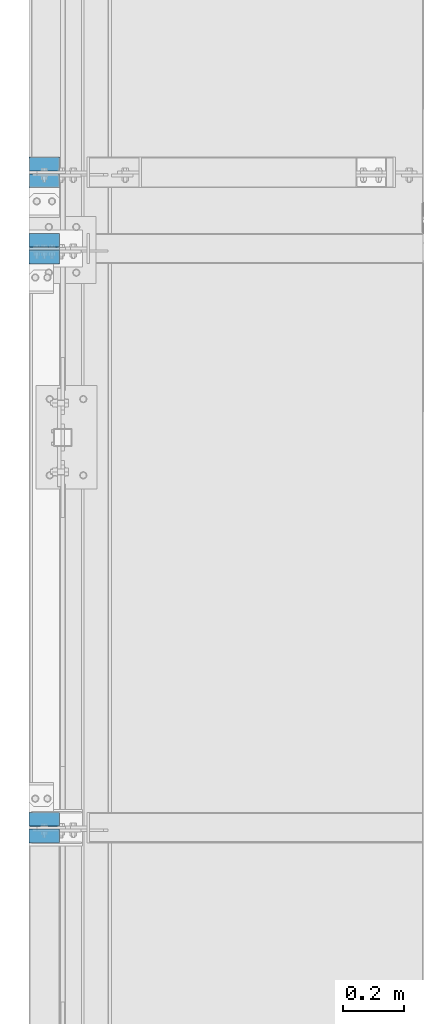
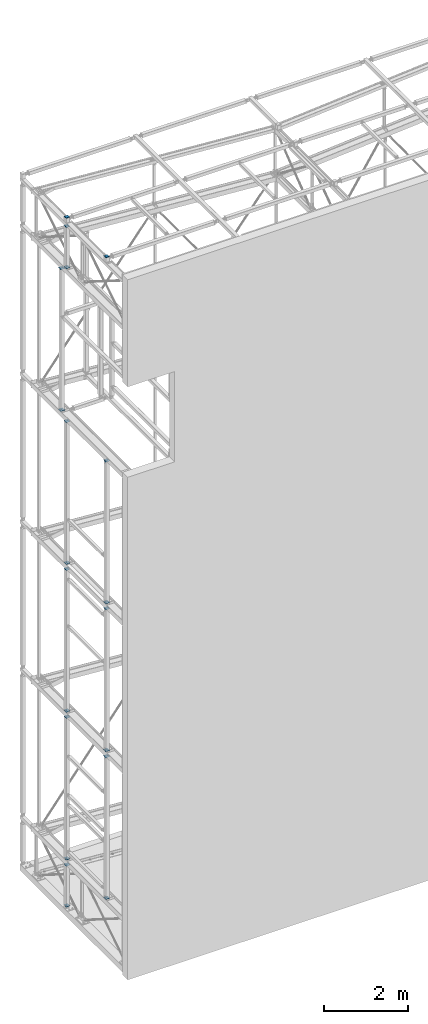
# One storey, part 2 of 271: 38 columns, 10 elements without a shape of their own.
"""IFC2X3 building model written with IfcOpenShell, lengths in millimetres."""

from ifc_helpers import new_model, si_unit, frame, origin_with_axes, origin_2d_with_axis, place, context, subcontext, project, spatial, rectangle, extrude, material, type_object, element, aggregate, save


model = new_model("IFC2X3")

# Units and contexts
model_context = context("Model", 3, precision=1e-05, world=origin_with_axes())
body_context = subcontext(model_context, "Body", "Model", "MODEL_VIEW")
ifc_project = project(units=[si_unit("LENGTHUNIT", "METRE", prefix="MILLI"), si_unit("AREAUNIT", "SQUARE_METRE"), si_unit("VOLUMEUNIT", "CUBIC_METRE"), si_unit("MASSUNIT", "GRAM", prefix="KILO"), si_unit("TIMEUNIT", "SECOND"), si_unit("PLANEANGLEUNIT", "RADIAN"), si_unit("SOLIDANGLEUNIT", "STERADIAN"), si_unit("THERMODYNAMICTEMPERATUREUNIT", "DEGREE_CELSIUS"), si_unit("LUMINOUSINTENSITYUNIT", "LUMEN")], contexts=[model_context])

# Site, building, storey
site_placement = place(None, origin_with_axes())
site = spatial("IfcSite", under=ifc_project, at=site_placement, Name="Undefined", CompositionType="ELEMENT")
building_placement = place(site_placement, origin_with_axes())
building = spatial("IfcBuilding", under=site, at=building_placement, Name="Undefined", CompositionType="ELEMENT")
storey_placement = place(building_placement, origin_with_axes())
storey = spatial("IfcBuildingStorey", under=building, at=storey_placement, Name="Undefined", CompositionType="ELEMENT", Elevation=0.0)

# Assembly, columns
assembly_1_placement = place(storey_placement, origin_with_axes())
assembly_1 = element("IfcElementAssembly", 1, at=assembly_1_placement, inside=storey, AssemblyPlace="NOTDEFINED", PredefinedType="RIGID_FRAME")
ifc_material = material(Name="STEEL/S355JR")
column_type = type_object("IfcColumnType", Name="BL4*100", PredefinedType="NOTDEFINED")
column_1_placement = place(assembly_1_placement, frame((38.3756870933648, 2749.05239091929, 19936.8499999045), z_axis=(0.0, 1.0, 0.0), x_axis=(-1.0, 0.0, 1.38777878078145e-17)))
column_1 = element("IfcColumn", 2, at=column_1_placement, type_object=column_type, material=ifc_material, Name="BLACHA", ObjectType="BL4*100", context=body_context, shape_type="SweptSolid", body=[
    extrude(rectangle(XDim=4.0, YDim=100.0, at=origin_2d_with_axis()), frame((0.0, 0.0, 45.0), z_axis=(0.0, 0.0, -1.0), x_axis=(0.0, 1.0, 0.0)), (0.0, 0.0, 1.0), 45.0),
])
column_2_placement = place(assembly_1_placement, frame((38.3756870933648, 2804.05225536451, 19936.8499999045), z_axis=(0.0, 1.0, 0.0), x_axis=(-1.0, 0.0, 1.38777878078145e-17)))
column_2 = element("IfcColumn", 3, at=column_2_placement, type_object=column_type, material=ifc_material, Name="BLACHA", ObjectType="BL4*100", context=body_context, shape_type="SweptSolid", body=[
    extrude(rectangle(XDim=4.0, YDim=100.0, at=origin_2d_with_axis()), frame((0.0, 0.0, 45.0), z_axis=(0.0, 0.0, -1.0), x_axis=(0.0, 1.0, 0.0)), (0.0, 0.0, 1.0), 45.0),
])
column_3_placement = place(assembly_1_placement, frame((38.3756870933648, 2749.05225536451, 18733.8499999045), z_axis=(0.0, 1.0, 0.0), x_axis=(-1.0, 0.0, 1.38777878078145e-17)))
column_3 = element("IfcColumn", 4, at=column_3_placement, type_object=column_type, material=ifc_material, Name="BLACHA", ObjectType="BL4*100", context=body_context, shape_type="SweptSolid", body=[
    extrude(rectangle(XDim=4.0, YDim=100.0, at=origin_2d_with_axis()), frame((0.0, 0.0, 45.0), z_axis=(0.0, 0.0, -1.0), x_axis=(0.0, 1.0, 0.0)), (0.0, 0.0, 1.0), 45.0),
])
column_4_placement = place(assembly_1_placement, frame((38.3756870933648, 2804.05211980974, 18733.8499999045), z_axis=(0.0, 1.0, 0.0), x_axis=(-1.0, 0.0, 1.38777878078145e-17)))
column_4 = element("IfcColumn", 5, at=column_4_placement, type_object=column_type, material=ifc_material, Name="BLACHA", ObjectType="BL4*100", context=body_context, shape_type="SweptSolid", body=[
    extrude(rectangle(XDim=4.0, YDim=100.0, at=origin_2d_with_axis()), frame((0.0, 0.0, 45.0), z_axis=(0.0, 0.0, -1.0), x_axis=(0.0, 1.0, 0.0)), (0.0, 0.0, 1.0), 45.0),
])
aggregate(assembly_1, [column_1, column_2, column_3, column_4])

assembly_2_placement = place(storey_placement, origin_with_axes())
assembly_2 = element("IfcElementAssembly", 6, at=assembly_2_placement, inside=storey, AssemblyPlace="NOTDEFINED", PredefinedType="RIGID_FRAME")
column_5_placement = place(assembly_2_placement, frame((38.3756870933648, 2749.05239091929, 79.8499999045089), z_axis=(0.0, 1.0, 0.0), x_axis=(-1.0, 0.0, 1.38777878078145e-17)))
column_5 = element("IfcColumn", 7, at=column_5_placement, type_object=column_type, material=ifc_material, Name="BLACHA", ObjectType="BL4*100", context=body_context, shape_type="SweptSolid", body=[
    extrude(rectangle(XDim=4.0, YDim=100.0, at=origin_2d_with_axis()), frame((0.0, 0.0, 45.0), z_axis=(0.0, 0.0, -1.0), x_axis=(0.0, 1.0, 0.0)), (0.0, 0.0, 1.0), 45.0),
])
column_6_placement = place(assembly_2_placement, frame((38.3756870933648, 2804.05225536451, 79.8499999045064), z_axis=(0.0, 1.0, 0.0), x_axis=(-1.0, 0.0, 1.38777878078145e-17)))
column_6 = element("IfcColumn", 8, at=column_6_placement, type_object=column_type, material=ifc_material, Name="BLACHA", ObjectType="BL4*100", context=body_context, shape_type="SweptSolid", body=[
    extrude(rectangle(XDim=4.0, YDim=100.0, at=origin_2d_with_axis()), frame((0.0, 0.0, 45.0), z_axis=(0.0, 0.0, -1.0), x_axis=(0.0, 1.0, 0.0)), (0.0, 0.0, 1.0), 45.0),
])
column_7_placement = place(assembly_2_placement, frame((38.3756870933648, 2749.05225536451, 1274.8499999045), z_axis=(0.0, 1.0, 0.0), x_axis=(-1.0, 0.0, 1.38777878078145e-17)))
column_7 = element("IfcColumn", 9, at=column_7_placement, type_object=column_type, material=ifc_material, Name="BLACHA", ObjectType="BL4*100", context=body_context, shape_type="SweptSolid", body=[
    extrude(rectangle(XDim=4.0, YDim=100.0, at=origin_2d_with_axis()), frame((0.0, 0.0, 45.0), z_axis=(0.0, 0.0, -1.0), x_axis=(0.0, 1.0, 0.0)), (0.0, 0.0, 1.0), 45.0),
])
column_8_placement = place(assembly_2_placement, frame((38.3756870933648, 2804.05211980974, 1274.84999990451), z_axis=(0.0, 1.0, 0.0), x_axis=(-1.0, 0.0, 1.38777878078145e-17)))
column_8 = element("IfcColumn", 10, at=column_8_placement, type_object=column_type, material=ifc_material, Name="BLACHA", ObjectType="BL4*100", context=body_context, shape_type="SweptSolid", body=[
    extrude(rectangle(XDim=4.0, YDim=100.0, at=origin_2d_with_axis()), frame((0.0, 0.0, 45.0), z_axis=(0.0, 0.0, -1.0), x_axis=(0.0, 1.0, 0.0)), (0.0, 0.0, 1.0), 45.0),
])
aggregate(assembly_2, [column_5, column_6, column_7, column_8])

assembly_3_placement = place(storey_placement, origin_with_axes())
assembly_3 = element("IfcElementAssembly", 11, at=assembly_3_placement, inside=storey, AssemblyPlace="NOTDEFINED", PredefinedType="RIGID_FRAME")
column_9_placement = place(assembly_3_placement, frame((38.3756870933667, 849.324984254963, 20202.3499999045), z_axis=(0.0, 1.0, 0.0), x_axis=(1.0, 0.0, 0.0)))
column_9 = element("IfcColumn", 12, at=column_9_placement, type_object=column_type, material=ifc_material, Name="BLACHA", ObjectType="BL4*100", context=body_context, shape_type="SweptSolid", body=[
    extrude(rectangle(XDim=4.0, YDim=100.0, at=origin_2d_with_axis()), frame((0.0, 0.0, 100.0), z_axis=(0.0, 0.0, -1.0), x_axis=(0.0, 1.0, 0.0)), (0.0, 0.0, 1.0), 100.0),
])
column_10_placement = place(assembly_3_placement, frame((38.3756870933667, 2749.32498425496, 20202.3499999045), z_axis=(0.0, 1.0, 0.0), x_axis=(1.0, 0.0, 0.0)))
column_10 = element("IfcColumn", 13, at=column_10_placement, type_object=column_type, material=ifc_material, Name="BLACHA", ObjectType="BL4*100", context=body_context, shape_type="SweptSolid", body=[
    extrude(rectangle(XDim=4.0, YDim=100.0, at=origin_2d_with_axis()), frame((0.0, 0.0, 100.0), z_axis=(0.0, 0.0, -1.0), x_axis=(0.0, 1.0, 0.0)), (0.0, 0.0, 1.0), 100.0),
])
aggregate(assembly_3, [column_9, column_10])

assembly_4_placement = place(storey_placement, origin_with_axes())
assembly_4 = element("IfcElementAssembly", 14, at=assembly_4_placement, inside=storey, AssemblyPlace="NOTDEFINED", PredefinedType="RIGID_FRAME")
column_11_placement = place(assembly_4_placement, frame((38.3756870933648, 3054.05211980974, 18554.8499999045), z_axis=(0.0, 1.0, 0.0), x_axis=(-1.0, 0.0, 1.38777878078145e-17)))
column_11 = element("IfcColumn", 15, at=column_11_placement, type_object=column_type, material=ifc_material, Name="BLACHA", ObjectType="BL4*100", context=body_context, shape_type="SweptSolid", body=[
    extrude(rectangle(XDim=4.0, YDim=100.0, at=origin_2d_with_axis()), frame((0.0, 0.0, 45.0), z_axis=(0.0, 0.0, -1.0), x_axis=(0.0, 1.0, 0.0)), (0.0, 0.0, 1.0), 45.0),
])
column_12_placement = place(assembly_4_placement, frame((38.3756870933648, 2999.05225536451, 18554.8499999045), z_axis=(0.0, 1.0, 0.0), x_axis=(-1.0, 0.0, 1.38777878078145e-17)))
column_12 = element("IfcColumn", 16, at=column_12_placement, type_object=column_type, material=ifc_material, Name="BLACHA", ObjectType="BL4*100", context=body_context, shape_type="SweptSolid", body=[
    extrude(rectangle(XDim=4.0, YDim=100.0, at=origin_2d_with_axis()), frame((0.0, 0.0, 45.0), z_axis=(0.0, 0.0, -1.0), x_axis=(0.0, 1.0, 0.0)), (0.0, 0.0, 1.0), 45.0),
])
column_13_placement = place(assembly_4_placement, frame((38.3756870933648, 2999.05225536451, 14413.8499999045), z_axis=(0.0, 1.0, 0.0), x_axis=(-1.0, 0.0, 1.38777878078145e-17)))
column_13 = element("IfcColumn", 17, at=column_13_placement, type_object=column_type, material=ifc_material, Name="BLACHA", ObjectType="BL4*100", context=body_context, shape_type="SweptSolid", body=[
    extrude(rectangle(XDim=4.0, YDim=100.0, at=origin_2d_with_axis()), frame((0.0, 0.0, 45.0), z_axis=(0.0, 0.0, -1.0), x_axis=(0.0, 1.0, 0.0)), (0.0, 0.0, 1.0), 45.0),
])
column_14_placement = place(assembly_4_placement, frame((38.3756870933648, 3054.05211980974, 14413.8499999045), z_axis=(0.0, 1.0, 0.0), x_axis=(-1.0, 0.0, 1.38777878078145e-17)))
column_14 = element("IfcColumn", 18, at=column_14_placement, type_object=column_type, material=ifc_material, Name="BLACHA", ObjectType="BL4*100", context=body_context, shape_type="SweptSolid", body=[
    extrude(rectangle(XDim=4.0, YDim=100.0, at=origin_2d_with_axis()), frame((0.0, 0.0, 45.0), z_axis=(0.0, 0.0, -1.0), x_axis=(0.0, 1.0, 0.0)), (0.0, 0.0, 1.0), 45.0),
])
aggregate(assembly_4, [column_11, column_12, column_13, column_14])

# Assembly, column
assembly_5_placement = place(storey_placement, origin_with_axes())
assembly_5 = element("IfcElementAssembly", 19, at=assembly_5_placement, inside=storey, AssemblyPlace="NOTDEFINED", PredefinedType="RIGID_FRAME")
column_15_placement = place(assembly_5_placement, frame((38.3756870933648, 904.052119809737, 14234.8499999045), z_axis=(0.0, 1.0, 0.0), x_axis=(-1.0, 0.0, 1.38777878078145e-17)))
column_15 = element("IfcColumn", 20, at=column_15_placement, type_object=column_type, material=ifc_material, Name="BLACHA", ObjectType="BL4*100", context=body_context, shape_type="SweptSolid", body=[
    extrude(rectangle(XDim=4.0, YDim=100.0, at=origin_2d_with_axis()), frame((0.0, 0.0, 45.0), z_axis=(0.0, 0.0, -1.0), x_axis=(0.0, 1.0, 0.0)), (0.0, 0.0, 1.0), 45.0),
])

assembly_6_placement = place(storey_placement, origin_with_axes())
assembly_6 = element("IfcElementAssembly", 21, at=assembly_6_placement, inside=storey, AssemblyPlace="NOTDEFINED", PredefinedType="RIGID_FRAME")
column_16_placement = place(assembly_6_placement, frame((38.3756870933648, 2804.05211980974, 14234.8499999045), z_axis=(0.0, 1.0, 0.0), x_axis=(-1.0, 0.0, 1.38777878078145e-17)))
column_16 = element("IfcColumn", 22, at=column_16_placement, type_object=column_type, material=ifc_material, Name="BLACHA", ObjectType="BL4*100", context=body_context, shape_type="SweptSolid", body=[
    extrude(rectangle(XDim=4.0, YDim=100.0, at=origin_2d_with_axis()), frame((0.0, 0.0, 45.0), z_axis=(0.0, 0.0, -1.0), x_axis=(0.0, 1.0, 0.0)), (0.0, 0.0, 1.0), 45.0),
])

assembly_7_placement = place(storey_placement, origin_with_axes())
assembly_7 = element("IfcElementAssembly", 23, at=assembly_7_placement, inside=storey, AssemblyPlace="NOTDEFINED", PredefinedType="RIGID_FRAME")
column_17_placement = place(assembly_7_placement, frame((38.3756870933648, 904.052119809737, 9914.8499999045), z_axis=(0.0, 1.0, 0.0), x_axis=(-1.0, 0.0, 1.38777878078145e-17)))
column_17 = element("IfcColumn", 24, at=column_17_placement, type_object=column_type, material=ifc_material, Name="BLACHA", ObjectType="BL4*100", context=body_context, shape_type="SweptSolid", body=[
    extrude(rectangle(XDim=4.0, YDim=100.0, at=origin_2d_with_axis()), frame((0.0, 0.0, 45.0), z_axis=(0.0, 0.0, -1.0), x_axis=(0.0, 1.0, 0.0)), (0.0, 0.0, 1.0), 45.0),
])

assembly_8_placement = place(storey_placement, origin_with_axes())
assembly_8 = element("IfcElementAssembly", 25, at=assembly_8_placement, inside=storey, AssemblyPlace="NOTDEFINED", PredefinedType="RIGID_FRAME")
column_18_placement = place(assembly_8_placement, frame((38.3756870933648, 2804.05211980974, 9914.8499999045), z_axis=(0.0, 1.0, 0.0), x_axis=(-1.0, 0.0, 1.38777878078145e-17)))
column_18 = element("IfcColumn", 26, at=column_18_placement, type_object=column_type, material=ifc_material, Name="BLACHA", ObjectType="BL4*100", context=body_context, shape_type="SweptSolid", body=[
    extrude(rectangle(XDim=4.0, YDim=100.0, at=origin_2d_with_axis()), frame((0.0, 0.0, 45.0), z_axis=(0.0, 0.0, -1.0), x_axis=(0.0, 1.0, 0.0)), (0.0, 0.0, 1.0), 45.0),
])

assembly_9_placement = place(storey_placement, origin_with_axes())
assembly_9 = element("IfcElementAssembly", 27, at=assembly_9_placement, inside=storey, AssemblyPlace="NOTDEFINED", PredefinedType="RIGID_FRAME")
column_19_placement = place(assembly_9_placement, frame((38.3756870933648, 904.052119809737, 5594.84999990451), z_axis=(0.0, 1.0, 0.0), x_axis=(-1.0, 0.0, 1.38777878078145e-17)))
column_19 = element("IfcColumn", 28, at=column_19_placement, type_object=column_type, material=ifc_material, Name="BLACHA", ObjectType="BL4*100", context=body_context, shape_type="SweptSolid", body=[
    extrude(rectangle(XDim=4.0, YDim=100.0, at=origin_2d_with_axis()), frame((0.0, 0.0, 45.0), z_axis=(0.0, 0.0, -1.0), x_axis=(0.0, 1.0, 0.0)), (0.0, 0.0, 1.0), 45.0),
])

# Column
column_20_placement = place(assembly_5_placement, frame((38.3756870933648, 849.052255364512, 14234.8499999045), z_axis=(0.0, 1.0, 0.0), x_axis=(-1.0, 0.0, 1.38777878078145e-17)))
column_20 = element("IfcColumn", 29, at=column_20_placement, type_object=column_type, material=ifc_material, Name="BLACHA", ObjectType="BL4*100", context=body_context, shape_type="SweptSolid", body=[
    extrude(rectangle(XDim=4.0, YDim=100.0, at=origin_2d_with_axis()), frame((0.0, 0.0, 45.0), z_axis=(0.0, 0.0, -1.0), x_axis=(0.0, 1.0, 0.0)), (0.0, 0.0, 1.0), 45.0),
])

column_21_placement = place(assembly_5_placement, frame((38.3756870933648, 849.052255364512, 10093.8499999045), z_axis=(0.0, 1.0, 0.0), x_axis=(-1.0, 0.0, 1.38777878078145e-17)))
column_21 = element("IfcColumn", 30, at=column_21_placement, type_object=column_type, material=ifc_material, Name="BLACHA", ObjectType="BL4*100", context=body_context, shape_type="SweptSolid", body=[
    extrude(rectangle(XDim=4.0, YDim=100.0, at=origin_2d_with_axis()), frame((0.0, 0.0, 45.0), z_axis=(0.0, 0.0, -1.0), x_axis=(0.0, 1.0, 0.0)), (0.0, 0.0, 1.0), 45.0),
])

column_22_placement = place(assembly_5_placement, frame((38.3756870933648, 904.052119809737, 10093.8499999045), z_axis=(0.0, 1.0, 0.0), x_axis=(-1.0, 0.0, 1.38777878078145e-17)))
column_22 = element("IfcColumn", 31, at=column_22_placement, type_object=column_type, material=ifc_material, Name="BLACHA", ObjectType="BL4*100", context=body_context, shape_type="SweptSolid", body=[
    extrude(rectangle(XDim=4.0, YDim=100.0, at=origin_2d_with_axis()), frame((0.0, 0.0, 45.0), z_axis=(0.0, 0.0, -1.0), x_axis=(0.0, 1.0, 0.0)), (0.0, 0.0, 1.0), 45.0),
])

aggregate(assembly_5, [column_15, column_20, column_21, column_22])

column_23_placement = place(assembly_6_placement, frame((38.3756870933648, 2749.05225536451, 14234.8499999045), z_axis=(0.0, 1.0, 0.0), x_axis=(-1.0, 0.0, 1.38777878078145e-17)))
column_23 = element("IfcColumn", 32, at=column_23_placement, type_object=column_type, material=ifc_material, Name="BLACHA", ObjectType="BL4*100", context=body_context, shape_type="SweptSolid", body=[
    extrude(rectangle(XDim=4.0, YDim=100.0, at=origin_2d_with_axis()), frame((0.0, 0.0, 45.0), z_axis=(0.0, 0.0, -1.0), x_axis=(0.0, 1.0, 0.0)), (0.0, 0.0, 1.0), 45.0),
])

column_24_placement = place(assembly_6_placement, frame((38.3756870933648, 2749.05225536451, 10093.8499999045), z_axis=(0.0, 1.0, 0.0), x_axis=(-1.0, 0.0, 1.38777878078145e-17)))
column_24 = element("IfcColumn", 33, at=column_24_placement, type_object=column_type, material=ifc_material, Name="BLACHA", ObjectType="BL4*100", context=body_context, shape_type="SweptSolid", body=[
    extrude(rectangle(XDim=4.0, YDim=100.0, at=origin_2d_with_axis()), frame((0.0, 0.0, 45.0), z_axis=(0.0, 0.0, -1.0), x_axis=(0.0, 1.0, 0.0)), (0.0, 0.0, 1.0), 45.0),
])

column_25_placement = place(assembly_6_placement, frame((38.3756870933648, 2804.05211980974, 10093.8499999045), z_axis=(0.0, 1.0, 0.0), x_axis=(-1.0, 0.0, 1.38777878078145e-17)))
column_25 = element("IfcColumn", 34, at=column_25_placement, type_object=column_type, material=ifc_material, Name="BLACHA", ObjectType="BL4*100", context=body_context, shape_type="SweptSolid", body=[
    extrude(rectangle(XDim=4.0, YDim=100.0, at=origin_2d_with_axis()), frame((0.0, 0.0, 45.0), z_axis=(0.0, 0.0, -1.0), x_axis=(0.0, 1.0, 0.0)), (0.0, 0.0, 1.0), 45.0),
])

aggregate(assembly_6, [column_16, column_23, column_24, column_25])

column_26_placement = place(assembly_7_placement, frame((38.3756870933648, 849.052255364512, 9914.84999990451), z_axis=(0.0, 1.0, 0.0), x_axis=(-1.0, 0.0, 1.38777878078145e-17)))
column_26 = element("IfcColumn", 35, at=column_26_placement, type_object=column_type, material=ifc_material, Name="BLACHA", ObjectType="BL4*100", context=body_context, shape_type="SweptSolid", body=[
    extrude(rectangle(XDim=4.0, YDim=100.0, at=origin_2d_with_axis()), frame((0.0, 0.0, 45.0), z_axis=(0.0, 0.0, -1.0), x_axis=(0.0, 1.0, 0.0)), (0.0, 0.0, 1.0), 45.0),
])

column_27_placement = place(assembly_7_placement, frame((38.3756870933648, 849.052255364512, 5773.84999990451), z_axis=(0.0, 1.0, 0.0), x_axis=(-1.0, 0.0, 1.38777878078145e-17)))
column_27 = element("IfcColumn", 36, at=column_27_placement, type_object=column_type, material=ifc_material, Name="BLACHA", ObjectType="BL4*100", context=body_context, shape_type="SweptSolid", body=[
    extrude(rectangle(XDim=4.0, YDim=100.0, at=origin_2d_with_axis()), frame((0.0, 0.0, 45.0), z_axis=(0.0, 0.0, -1.0), x_axis=(0.0, 1.0, 0.0)), (0.0, 0.0, 1.0), 45.0),
])

column_28_placement = place(assembly_7_placement, frame((38.3756870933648, 904.052119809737, 5773.84999990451), z_axis=(0.0, 1.0, 0.0), x_axis=(-1.0, 0.0, 1.38777878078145e-17)))
column_28 = element("IfcColumn", 37, at=column_28_placement, type_object=column_type, material=ifc_material, Name="BLACHA", ObjectType="BL4*100", context=body_context, shape_type="SweptSolid", body=[
    extrude(rectangle(XDim=4.0, YDim=100.0, at=origin_2d_with_axis()), frame((0.0, 0.0, 45.0), z_axis=(0.0, 0.0, -1.0), x_axis=(0.0, 1.0, 0.0)), (0.0, 0.0, 1.0), 45.0),
])

aggregate(assembly_7, [column_17, column_26, column_27, column_28])

column_29_placement = place(assembly_8_placement, frame((38.3756870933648, 2749.05225536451, 9914.84999990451), z_axis=(0.0, 1.0, 0.0), x_axis=(-1.0, 0.0, 1.38777878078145e-17)))
column_29 = element("IfcColumn", 38, at=column_29_placement, type_object=column_type, material=ifc_material, Name="BLACHA", ObjectType="BL4*100", context=body_context, shape_type="SweptSolid", body=[
    extrude(rectangle(XDim=4.0, YDim=100.0, at=origin_2d_with_axis()), frame((0.0, 0.0, 45.0), z_axis=(0.0, 0.0, -1.0), x_axis=(0.0, 1.0, 0.0)), (0.0, 0.0, 1.0), 45.0),
])

column_30_placement = place(assembly_8_placement, frame((38.3756870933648, 2749.05225536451, 5773.84999990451), z_axis=(0.0, 1.0, 0.0), x_axis=(-1.0, 0.0, 1.38777878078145e-17)))
column_30 = element("IfcColumn", 39, at=column_30_placement, type_object=column_type, material=ifc_material, Name="BLACHA", ObjectType="BL4*100", context=body_context, shape_type="SweptSolid", body=[
    extrude(rectangle(XDim=4.0, YDim=100.0, at=origin_2d_with_axis()), frame((0.0, 0.0, 45.0), z_axis=(0.0, 0.0, -1.0), x_axis=(0.0, 1.0, 0.0)), (0.0, 0.0, 1.0), 45.0),
])

column_31_placement = place(assembly_8_placement, frame((38.3756870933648, 2804.05211980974, 5773.84999990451), z_axis=(0.0, 1.0, 0.0), x_axis=(-1.0, 0.0, 1.38777878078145e-17)))
column_31 = element("IfcColumn", 40, at=column_31_placement, type_object=column_type, material=ifc_material, Name="BLACHA", ObjectType="BL4*100", context=body_context, shape_type="SweptSolid", body=[
    extrude(rectangle(XDim=4.0, YDim=100.0, at=origin_2d_with_axis()), frame((0.0, 0.0, 45.0), z_axis=(0.0, 0.0, -1.0), x_axis=(0.0, 1.0, 0.0)), (0.0, 0.0, 1.0), 45.0),
])

aggregate(assembly_8, [column_18, column_29, column_30, column_31])

column_32_placement = place(assembly_9_placement, frame((38.3756870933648, 849.052255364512, 5594.8499999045), z_axis=(0.0, 1.0, 0.0), x_axis=(-1.0, 0.0, 1.38777878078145e-17)))
column_32 = element("IfcColumn", 41, at=column_32_placement, type_object=column_type, material=ifc_material, Name="BLACHA", ObjectType="BL4*100", context=body_context, shape_type="SweptSolid", body=[
    extrude(rectangle(XDim=4.0, YDim=100.0, at=origin_2d_with_axis()), frame((0.0, 0.0, 45.0), z_axis=(0.0, 0.0, -1.0), x_axis=(0.0, 1.0, 0.0)), (0.0, 0.0, 1.0), 45.0),
])

column_33_placement = place(assembly_9_placement, frame((38.3756870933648, 849.052255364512, 1453.84999990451), z_axis=(0.0, 1.0, 0.0), x_axis=(-1.0, 0.0, 1.38777878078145e-17)))
column_33 = element("IfcColumn", 42, at=column_33_placement, type_object=column_type, material=ifc_material, Name="BLACHA", ObjectType="BL4*100", context=body_context, shape_type="SweptSolid", body=[
    extrude(rectangle(XDim=4.0, YDim=100.0, at=origin_2d_with_axis()), frame((0.0, 0.0, 45.0), z_axis=(0.0, 0.0, -1.0), x_axis=(0.0, 1.0, 0.0)), (0.0, 0.0, 1.0), 45.0),
])

column_34_placement = place(assembly_9_placement, frame((38.3756870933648, 904.052119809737, 1453.84999990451), z_axis=(0.0, 1.0, 0.0), x_axis=(-1.0, 0.0, 1.38777878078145e-17)))
column_34 = element("IfcColumn", 43, at=column_34_placement, type_object=column_type, material=ifc_material, Name="BLACHA", ObjectType="BL4*100", context=body_context, shape_type="SweptSolid", body=[
    extrude(rectangle(XDim=4.0, YDim=100.0, at=origin_2d_with_axis()), frame((0.0, 0.0, 45.0), z_axis=(0.0, 0.0, -1.0), x_axis=(0.0, 1.0, 0.0)), (0.0, 0.0, 1.0), 45.0),
])

aggregate(assembly_9, [column_19, column_32, column_33, column_34])

# Assembly, columns
assembly_10_placement = place(storey_placement, origin_with_axes())
assembly_10 = element("IfcElementAssembly", 44, at=assembly_10_placement, inside=storey, AssemblyPlace="NOTDEFINED", PredefinedType="RIGID_FRAME")
column_35_placement = place(assembly_10_placement, frame((38.3756870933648, 2749.05225536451, 5594.8499999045), z_axis=(0.0, 1.0, 0.0), x_axis=(-1.0, 0.0, 1.38777878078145e-17)))
column_35 = element("IfcColumn", 45, at=column_35_placement, type_object=column_type, material=ifc_material, Name="BLACHA", ObjectType="BL4*100", context=body_context, shape_type="SweptSolid", body=[
    extrude(rectangle(XDim=4.0, YDim=100.0, at=origin_2d_with_axis()), frame((0.0, 0.0, 45.0), z_axis=(0.0, 0.0, -1.0), x_axis=(0.0, 1.0, 0.0)), (0.0, 0.0, 1.0), 45.0),
])
column_36_placement = place(assembly_10_placement, frame((38.3756870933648, 2804.05211980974, 5594.84999990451), z_axis=(0.0, 1.0, 0.0), x_axis=(-1.0, 0.0, 1.38777878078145e-17)))
column_36 = element("IfcColumn", 46, at=column_36_placement, type_object=column_type, material=ifc_material, Name="BLACHA", ObjectType="BL4*100", context=body_context, shape_type="SweptSolid", body=[
    extrude(rectangle(XDim=4.0, YDim=100.0, at=origin_2d_with_axis()), frame((0.0, 0.0, 45.0), z_axis=(0.0, 0.0, -1.0), x_axis=(0.0, 1.0, 0.0)), (0.0, 0.0, 1.0), 45.0),
])
column_37_placement = place(assembly_10_placement, frame((38.3756870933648, 2749.05225536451, 1453.84999990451), z_axis=(0.0, 1.0, 0.0), x_axis=(-1.0, 0.0, 1.38777878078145e-17)))
column_37 = element("IfcColumn", 47, at=column_37_placement, type_object=column_type, material=ifc_material, Name="BLACHA", ObjectType="BL4*100", context=body_context, shape_type="SweptSolid", body=[
    extrude(rectangle(XDim=4.0, YDim=100.0, at=origin_2d_with_axis()), frame((0.0, 0.0, 45.0), z_axis=(0.0, 0.0, -1.0), x_axis=(0.0, 1.0, 0.0)), (0.0, 0.0, 1.0), 45.0),
])
column_38_placement = place(assembly_10_placement, frame((38.3756870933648, 2804.05211980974, 1453.84999990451), z_axis=(0.0, 1.0, 0.0), x_axis=(-1.0, 0.0, 1.38777878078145e-17)))
column_38 = element("IfcColumn", 48, at=column_38_placement, type_object=column_type, material=ifc_material, Name="BLACHA", ObjectType="BL4*100", context=body_context, shape_type="SweptSolid", body=[
    extrude(rectangle(XDim=4.0, YDim=100.0, at=origin_2d_with_axis()), frame((0.0, 0.0, 45.0), z_axis=(0.0, 0.0, -1.0), x_axis=(0.0, 1.0, 0.0)), (0.0, 0.0, 1.0), 45.0),
])
aggregate(assembly_10, [column_35, column_36, column_37, column_38])

save(model, "model.ifc")
